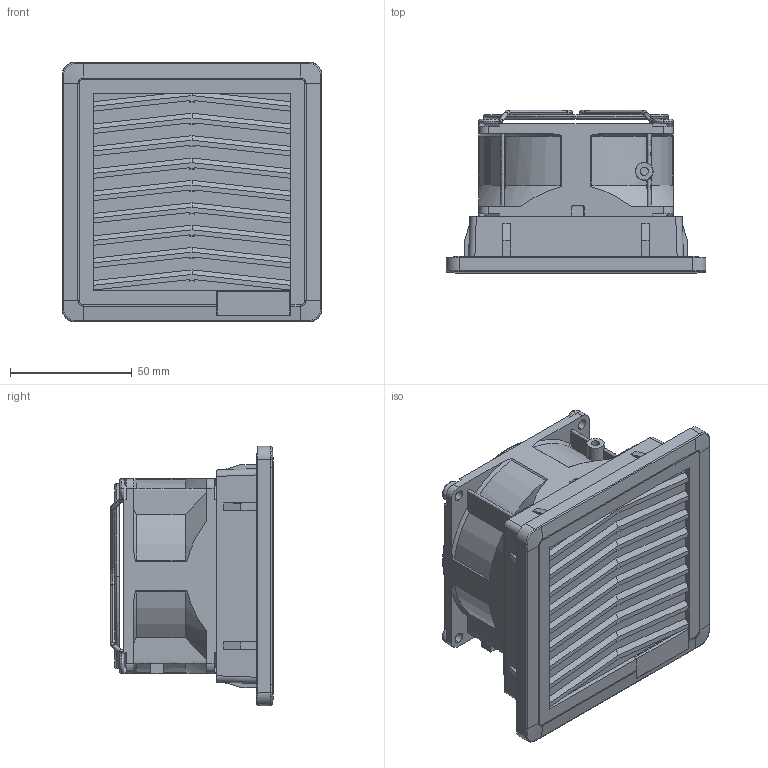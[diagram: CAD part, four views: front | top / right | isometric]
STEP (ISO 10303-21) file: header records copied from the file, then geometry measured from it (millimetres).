
FILE_DESCRIPTION (( 'STEP AP214' ), '1' );
FILE_NAME ('FF08AxxxyNR_DT-00918DSI.STEP', '2023-09-05T08:48:47', ( '' ), ( '' ), 'SwSTEP 2.0', 'SolidWorks 2022', '' );
FILE_SCHEMA (( 'AUTOMOTIVE_DESIGN' ));
Length unit declared in the file: millimetre
Products named in the file (6): DT-00242DSI_Coperchio semplificato; DT-02375DSI_Semplificata; DT-02365DSI; FF08AxxxyNR_DT-00918DSI; DT-04082DSI_mostrina semplificata; FF08BGJ-xxxx_base semplificata
Assembly tree (5 placements, depth 2):
  FF08AxxxyNR_DT-00918DSI
    FF08BGJ-xxxx_base semplificata
    DT-00242DSI_Coperchio semplificato
    DT-02375DSI_Semplificata
    DT-02365DSI
    DT-04082DSI_mostrina semplificata
Bounding box: 106.6 x 66.9 x 106.54 mm (x, y, z)
Volume: 435087.3 mm3; surface area: 90603 mm2
Topology: 5 solids, 5 shells, 513 faces, 1450 edges, 949 vertices
Faces by surface type: plane 235, cylinder 128, torus 84, bspline 44, cone 22
Entity records: 18707 total; most frequent: CARTESIAN_POINT 5090, ORIENTED_EDGE 2888, DIRECTION 2649, EDGE_CURVE 1444, VERTEX_POINT 949, AXIS2_PLACEMENT_3D 930, VECTOR 789, LINE 789
